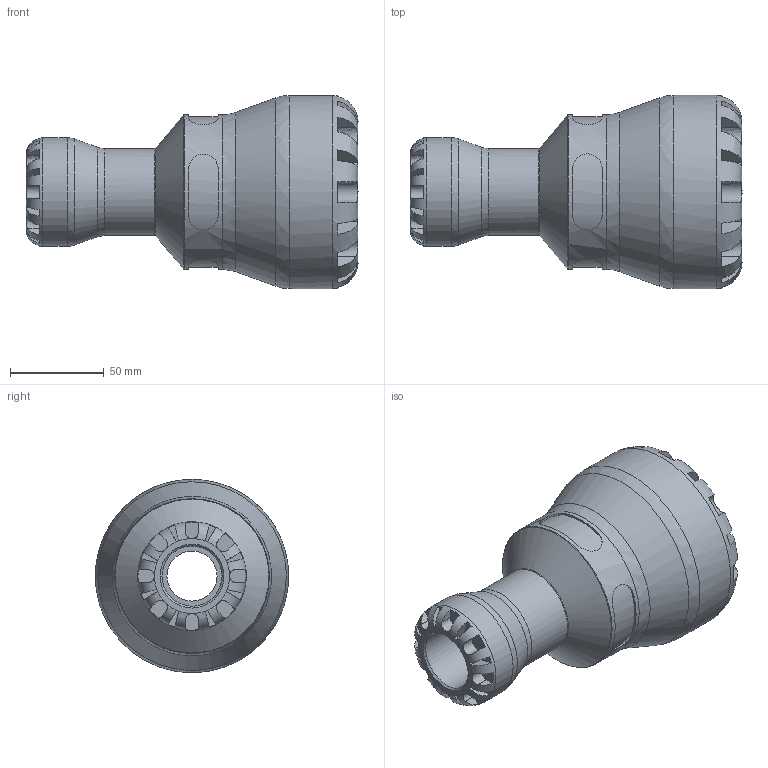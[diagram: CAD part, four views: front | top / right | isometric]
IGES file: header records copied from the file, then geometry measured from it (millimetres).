
Global section: file name: 151100063032; native system: Autodesk Inventor 2019; preprocessor: unknown; author: KIM; date: 20231017.194523; units: millimetre
Bounding box: 177 x 103 x 102.92 mm (x, y, z)
Volume: 445608.7 mm3; surface area: 83146.6 mm2
Topology: 1 solids, 1 shells, 172 faces, 465 edges, 300 vertices
Faces by surface type: bspline 172
